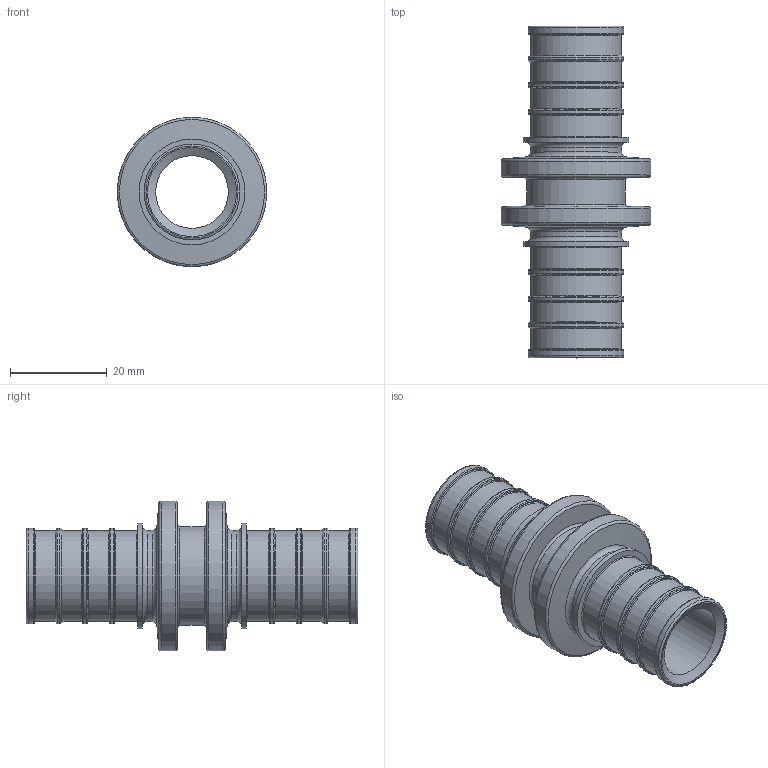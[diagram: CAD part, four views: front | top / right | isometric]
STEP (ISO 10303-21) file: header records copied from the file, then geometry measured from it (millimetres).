
FILE_DESCRIPTION(('STEP AP203'), '1');
FILE_NAME('ÂÐ.716641.005 - VTm.403.G.002525 Ôèò. íàäâ. ïð', '2024-01-23T11:02:43', ('IT'), ('VESTA'), 'C3D Converter', 'C3D Toolkit', '');
FILE_SCHEMA(('CONFIG_CONTROL_DESIGN'));
Length unit declared in the file: millimetre
Products named in the file (1): ВР.716641.005
Bounding box: 30.9 x 68.5 x 30.9 mm (x, y, z)
Volume: 11449.6 mm3; surface area: 10008.4 mm2
Topology: 1 solids, 1 shells, 92 faces, 162 edges, 92 vertices
Faces by surface type: torus 42, cylinder 24, plane 22, cone 4
Full cylindrical faces by diameter (mm): 15 x1, 18.8 x10, 19.8 x8, 20.4 x1, 21.8 x2, 30.9 x2
Entity records: 1879 total; most frequent: DIRECTION 370, CARTESIAN_POINT 277, AXIS2_PLACEMENT_3D 185, EDGE_LOOP 184, ORIENTED_EDGE 184, FACE_OUTER_BOUND 140, ADVANCED_FACE 92, EDGE_CURVE 92
